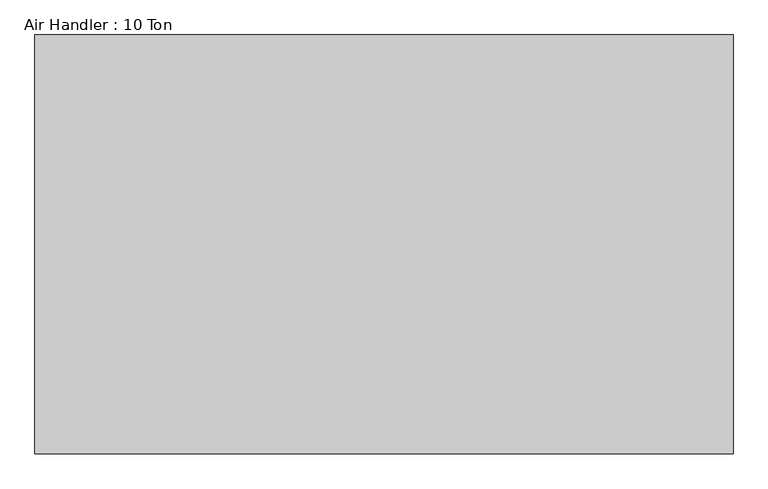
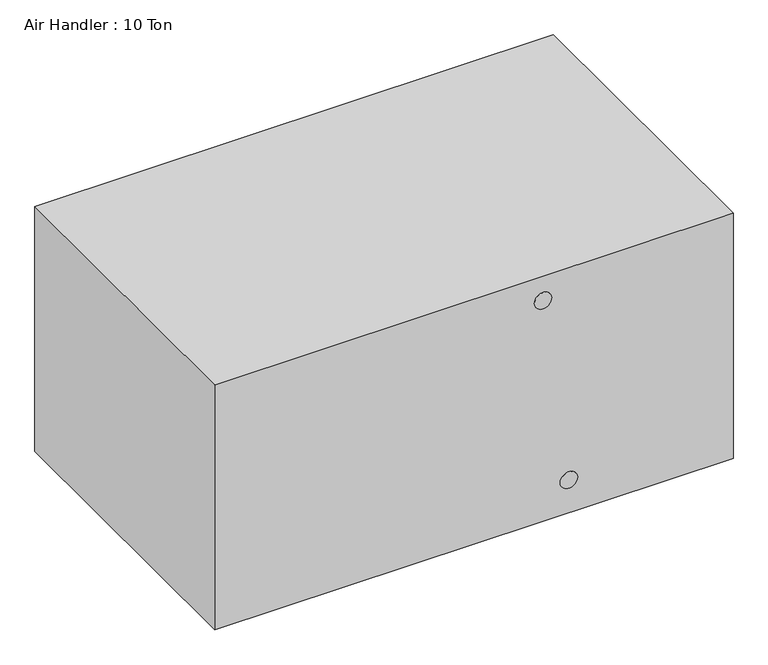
"""IFC4 building model written with IfcOpenShell, lengths in millimetres: proxy geometry, Air Handler : 10 Ton."""

import ifcopenshell
import ifcopenshell.guid

model = None  # the IFC model being written
_history = None  # IfcOwnerHistory: only IFC2X3 demands one
_inside = {}  # id of a spatial element -> (the spatial element, [elements in it])
_under = {}  # id of a project, library or spatial element -> (it, [spatial elements below it])
_declared = {}  # id of a project -> (the project, [libraries it declares])
_typed = {}  # id of a type object -> (the type object, [elements of that type])
_made_of = {}  # id of a material, layer set ... -> (it, [elements and type objects made of it])


def new_model(schema):
    """Start an empty IFC model of exactly this schema.

    Asked for "IFC4X3", IfcOpenShell would pick the latest addendum, in which some entities
    have other attributes; the version numbers below select the first issue.
    IFC2X3 requires an IfcOwnerHistory on every rooted entity: one is made here for all.
    """
    global model, _history
    if schema == "IFC4X3":
        model = ifcopenshell.file(schema_version=(4, 3, 0, 0))
    else:
        model = ifcopenshell.file(schema=schema)
    _inside.clear()
    _under.clear()
    _declared.clear()
    _typed.clear()
    _made_of.clear()
    _history = None
    if model.schema == "IFC2X3":
        org = make("IfcOrganization", Name="unknown")
        user = make(
            "IfcPersonAndOrganization",
            ThePerson=make("IfcPerson", FamilyName="unknown"),
            TheOrganization=org,
        )
        app = make(
            "IfcApplication",
            ApplicationDeveloper=org,
            Version="unknown",
            ApplicationFullName="unknown",
            ApplicationIdentifier="unknown",
        )
        _history = make(
            "IfcOwnerHistory",
            OwningUser=user,
            OwningApplication=app,
            ChangeAction="ADDED",
            CreationDate=0,
        )
    return model


def make(cls, **values):
    """One entity of the class cls with the attributes given. An attribute that is None is left unset."""
    return model.create_entity(
        cls, **{name: value for name, value in values.items() if value is not None}
    )


def rooted(cls, **values):
    """An entity with a GlobalId (a new one), such as an element, a storey or a relation."""
    return make(cls, GlobalId=ifcopenshell.guid.new(), OwnerHistory=_history, **values)


def si_unit(unit_type, name, prefix=None):
    """IfcSIUnit, for example si_unit("LENGTHUNIT", "METRE", prefix="MILLI")."""
    return make("IfcSIUnit", UnitType=unit_type, Prefix=prefix, Name=name)


def assignment(units):
    """IfcUnitAssignment: the units of a project."""
    return None if units is None else make("IfcUnitAssignment", Units=units)


def point(xyz):
    """IfcCartesianPoint."""
    return None if xyz is None else make("IfcCartesianPoint", Coordinates=xyz)


def direction(xyz):
    """IfcDirection."""
    return None if xyz is None else make("IfcDirection", DirectionRatios=xyz)


def frame(location, z_axis=None, x_axis=None):
    """IfcAxis2Placement3D, a coordinate frame: its origin and axes. An axis left out is left unset."""
    return make(
        "IfcAxis2Placement3D",
        Location=point(location),
        Axis=direction(z_axis),
        RefDirection=direction(x_axis),
    )


def frame_2d(location, x_axis=None):
    """IfcAxis2Placement2D, a coordinate frame in the plane: its origin and x axis."""
    return make(
        "IfcAxis2Placement2D", Location=point(location), RefDirection=direction(x_axis)
    )


def origin():
    """The frame at (0, 0, 0) with its axes left unset."""
    return frame((0.0, 0.0, 0.0))


def origin_with_axes():
    """The frame at (0, 0, 0) with the z axis (0, 0, 1) and the x axis (1, 0, 0) written out."""
    return frame((0.0, 0.0, 0.0), z_axis=(0.0, 0.0, 1.0), x_axis=(1.0, 0.0, 0.0))


def place(relative_to, where):
    """IfcLocalPlacement: puts the frame where relative to a parent placement (None: the world)."""
    return make(
        "IfcLocalPlacement", PlacementRelTo=relative_to, RelativePlacement=where
    )


def context(
    kind, dimensions, precision=None, world=None, true_north=None, identifier=None
):
    """IfcGeometricRepresentationContext, for example the 3D "Model" context."""
    return make(
        "IfcGeometricRepresentationContext",
        ContextIdentifier=identifier,
        ContextType=kind,
        CoordinateSpaceDimension=dimensions,
        Precision=precision,
        WorldCoordinateSystem=world,
        TrueNorth=true_north,
    )


def project(units=None, contexts=None):
    """IfcProject with its units and contexts."""
    return rooted(
        "IfcProject",
        Name="project",
        RepresentationContexts=contexts,
        UnitsInContext=assignment(units),
    )


def spatial(cls, under=None, at=None, **own):
    """A site, building, storey or space (cls), placed at a placement, below another one or the project."""
    s = rooted(cls, ObjectPlacement=at, **own)
    if under is not None:
        _under.setdefault(under.id(), (under, []))[1].append(s)
    return s


def polyline(points):
    """IfcPolyline through the points."""
    return make("IfcPolyline", Points=[point(p) for p in points])


def circle_curve(where, radius):
    """IfcCircle in the frame where."""
    return make("IfcCircle", Position=where, Radius=radius)


def trimmed(basis, trim1, trim2, sense, master):
    """IfcTrimmedCurve: the piece of a basis curve between two trims."""
    return make(
        "IfcTrimmedCurve",
        BasisCurve=basis,
        Trim1=trim1,
        Trim2=trim2,
        SenseAgreement=sense,
        MasterRepresentation=master,
    )


def segment(curve, same_sense, transition):
    """IfcCompositeCurveSegment."""
    return make(
        "IfcCompositeCurveSegment",
        Transition=transition,
        SameSense=same_sense,
        ParentCurve=curve,
    )


def composite_curve(segments, self_intersect=None):
    """IfcCompositeCurve: segments joined end to end."""
    return make("IfcCompositeCurve", Segments=segments, SelfIntersect=self_intersect)


def outline(outer, holes=None, kind="AREA"):
    """IfcArbitraryClosedProfileDef: a profile drawn as a closed curve; with holes, ...WithVoids."""
    if holes is None:
        return make("IfcArbitraryClosedProfileDef", ProfileType=kind, OuterCurve=outer)
    return make(
        "IfcArbitraryProfileDefWithVoids",
        ProfileType=kind,
        OuterCurve=outer,
        InnerCurves=holes,
    )


def extrude(swept, where, along, depth):
    """IfcExtrudedAreaSolid: the profile swept, set in the frame where, extruded along a direction by depth."""
    return make(
        "IfcExtrudedAreaSolid",
        SweptArea=swept,
        Position=where,
        ExtrudedDirection=direction(along),
        Depth=depth,
    )


def shape(context_of_items, identifier, shape_type, items):
    """IfcShapeRepresentation: the items that make up one representation, for example the "Body"."""
    return make(
        "IfcShapeRepresentation",
        ContextOfItems=context_of_items,
        RepresentationIdentifier=identifier,
        RepresentationType=shape_type,
        Items=items,
    )


def source(mapping_origin, context_of_items, identifier, shape_type, items):
    """IfcRepresentationMap: a shape defined once, which mapped items show again and again."""
    return make(
        "IfcRepresentationMap",
        MappingOrigin=mapping_origin,
        MappedRepresentation=shape(context_of_items, identifier, shape_type, items),
    )


def transform(
    local_origin,
    x_axis=None,
    y_axis=None,
    z_axis=None,
    scale=None,
    scale2=None,
    scale3=None,
    uniform=True,
):
    """IfcCartesianTransformationOperator3D, or its non-uniform kind. x_axis, y_axis, z_axis: its Axis1, 2, 3."""
    if uniform:
        return make(
            "IfcCartesianTransformationOperator3D",
            Axis1=direction(x_axis),
            Axis2=direction(y_axis),
            LocalOrigin=point(local_origin),
            Scale=scale,
            Axis3=direction(z_axis),
        )
    return make(
        "IfcCartesianTransformationOperator3DnonUniform",
        Axis1=direction(x_axis),
        Axis2=direction(y_axis),
        LocalOrigin=point(local_origin),
        Scale=scale,
        Axis3=direction(z_axis),
        Scale2=scale2,
        Scale3=scale3,
    )


def mapped(mapping_source, mapping_target):
    """IfcMappedItem: shows the shape of a source again, moved by a transform."""
    return make(
        "IfcMappedItem", MappingSource=mapping_source, MappingTarget=mapping_target
    )


def made_of(thing, what):
    """Note that an element or type object is made of a material, layer set ...; save() writes the relation."""
    if what is not None:
        _made_of.setdefault(what.id(), (what, []))[1].append(thing)
    return thing


def element(
    cls,
    number,
    at=None,
    inside=None,
    cuts=None,
    type_object=None,
    material=None,
    context=None,
    identifier="Body",
    shape_type=None,
    held_by="IfcProductDefinitionShape",
    body=None,
    shapes=None,
    **own,
):
    """One element of the class cls, such as IfcWall. Its Tag is "e" and its number.

    at: its placement. inside: the storey or other place that contains it. cuts: it is an
    opening in that element (IfcRelVoidsElement). A single representation is given by context,
    identifier, shape_type and body (its items); several are given by shapes. held_by: the class
    of the entity that holds the representations. save() writes the other relations.
    """
    e = rooted(cls, Tag="e%d" % number, ObjectPlacement=at, **own)
    if body is not None:
        shapes = [shape(context, identifier, shape_type, body)]
    if shapes is not None:
        e.Representation = make(held_by, Representations=shapes)
    if inside is not None:
        _inside.setdefault(inside.id(), (inside, []))[1].append(e)
    if cuts is not None:
        rooted(
            "IfcRelVoidsElement", RelatingBuildingElement=cuts, RelatedOpeningElement=e
        )
    if type_object is not None:
        _typed.setdefault(type_object.id(), (type_object, []))[1].append(e)
    return made_of(e, material)


def aggregate(whole, parts):
    """IfcRelAggregates: a whole, such as a stair, and the parts it consists of."""
    return rooted("IfcRelAggregates", RelatingObject=whole, RelatedObjects=parts)


def save(model, path):
    """Write the relations noted so far, then the file.

    IfcRelAggregates (storeys below a building ...), IfcRelContainedInSpatialStructure (elements
    in a storey), IfcRelDefinesByType, IfcRelAssociatesMaterial and IfcRelDeclares: one each for
    every whole, place, type object, material and project.
    """
    for whole, parts in _under.values():
        aggregate(whole, parts)
    for where, things in _inside.values():
        rooted(
            "IfcRelContainedInSpatialStructure",
            RelatedElements=things,
            RelatingStructure=where,
        )
    for kind, things in _typed.values():
        rooted("IfcRelDefinesByType", RelatedObjects=things, RelatingType=kind)
    for what, things in _made_of.values():
        rooted("IfcRelAssociatesMaterial", RelatedObjects=things, RelatingMaterial=what)
    for by, libraries in _declared.values():
        rooted("IfcRelDeclares", RelatingContext=by, RelatedDefinitions=libraries)
    model.write(path)


def air_handler_10_ton_c50fa258(model_context):
    return source(origin(), model_context, "Body", "SweptSolid", [
        extrude(outline(composite_curve([segment(trimmed(circle_curve(frame_2d((1371.6, -1291.43125)), 50.8), [point((1371.6, -1342.23125))], [point((1371.6, -1240.63125))], False, "CARTESIAN"), True, "CONTINUOUS"), segment(trimmed(circle_curve(frame_2d((1371.6, -1291.43125)), 50.8), [point((1371.6, -1240.63125))], [point((1371.6, -1342.23125))], False, "CARTESIAN"), True, "CONTINUOUS")], self_intersect=False)), frame((0.0, -213.9289612, 0.0), z_axis=(0.0, 1.0, 0.0), x_axis=(0.0, 0.0, 1.0)), (0.0, 0.0, 1.0), 26.6039612),
        extrude(outline(composite_curve([segment(trimmed(circle_curve(frame_2d((203.2, -1139.03125)), 50.8), [point((203.2, -1189.83125))], [point((203.2, -1088.23125))], False, "CARTESIAN"), True, "CONTINUOUS"), segment(trimmed(circle_curve(frame_2d((203.2, -1139.03125)), 50.8), [point((203.2, -1088.23125))], [point((203.2, -1189.83125))], False, "CARTESIAN"), True, "CONTINUOUS")], self_intersect=False)), frame((0.0, -213.9289612, 0.0), z_axis=(0.0, 1.0, 0.0), x_axis=(0.0, 0.0, 1.0)), (0.0, 0.0, 1.0), 26.6039612),
        extrude(outline(polyline([(-3221.83125, -213.9289612), (-3221.83125, 1614.8710388), (-173.83125, 1614.8710388), (-173.83125, -213.9289612), (-3221.83125, -213.9289612)])), origin_with_axes(), (0.0, 0.0, 1.0), 1524.0),
    ])


if __name__ == "__main__":
    model = new_model("IFC4")
    model_context = context("Model", 3, world=origin())
    ifc_project = project(units=[si_unit("LENGTHUNIT", "METRE", prefix="MILLI")], contexts=[model_context])
    site = spatial("IfcSite", under=ifc_project)
    building = spatial("IfcBuilding", under=site)
    placement = place(None, origin())
    air_handler_10_ton_shape = air_handler_10_ton_c50fa258(model_context)
    element("IfcBuildingElementProxy", 1, Name="Air Handler : 10 Ton", ObjectType="Air Handler : 10 Ton", at=placement, inside=building, context=model_context, shape_type="MappedRepresentation", body=[
        mapped(air_handler_10_ton_shape, transform((0.0, 0.0, 0.0), x_axis=(1.0, 0.0, 0.0), y_axis=(0.0, 1.0, 0.0), z_axis=(0.0, 0.0, 1.0))),
    ])
    save(model, "model.ifc")
